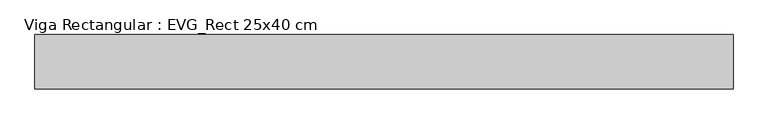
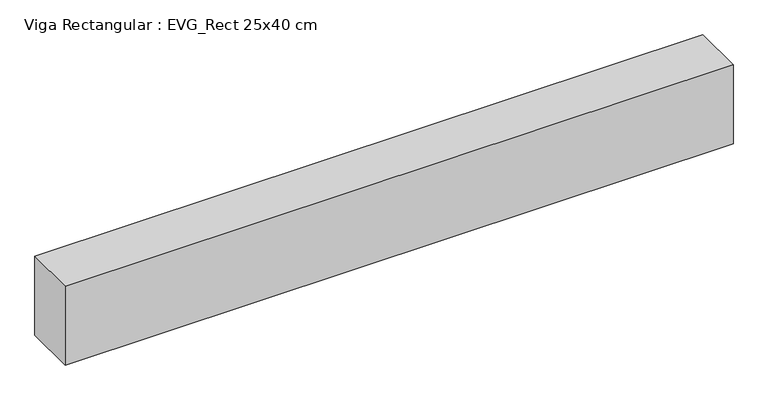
"""IFC4 building model written with IfcOpenShell, lengths in millimetres: beam geometry, Viga Rectangular : EVG_Rect 25x40 cm."""

from ifc_helpers import new_model, si_unit, frame, origin, place, context, project, spatial, polyline, outline, extrude, source, transform, mapped, element, save


def viga_rectangular_evg_rect_25x40_cm_830f614a(model_context):
    return source(origin(), model_context, "Body", "SweptSolid", [
        extrude(outline(polyline([(1312.5, 125.0), (1312.5, -125.0), (-1887.5, -125.0), (-1887.5, 125.0), (1312.5, 125.0)])), frame((0.0, 0.0, -400.0), z_axis=(0.0, 0.0, 1.0), x_axis=(1.0, 0.0, 0.0)), (0.0, 0.0, 1.0), 400.0),
    ])


if __name__ == "__main__":
    model = new_model("IFC4")
    model_context = context("Model", 3, world=origin())
    ifc_project = project(units=[si_unit("LENGTHUNIT", "METRE", prefix="MILLI")], contexts=[model_context])
    site = spatial("IfcSite", under=ifc_project)
    building = spatial("IfcBuilding", under=site)
    placement = place(None, origin())
    viga_rectangular_evg_rect_25x40_cm_shape = viga_rectangular_evg_rect_25x40_cm_830f614a(model_context)
    element("IfcBeam", 1, ObjectType="Viga Rectangular : EVG_Rect 25x40 cm", at=placement, inside=building, context=model_context, shape_type="MappedRepresentation", body=[
        mapped(viga_rectangular_evg_rect_25x40_cm_shape, transform((0.0, 0.0, 0.0), x_axis=(1.0, 0.0, 0.0), y_axis=(0.0, 1.0, 0.0), z_axis=(0.0, 0.0, 1.0))),
    ])
    save(model, "model.ifc")
